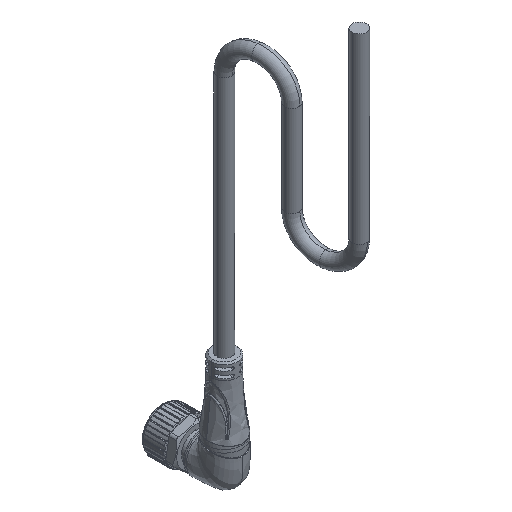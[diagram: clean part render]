
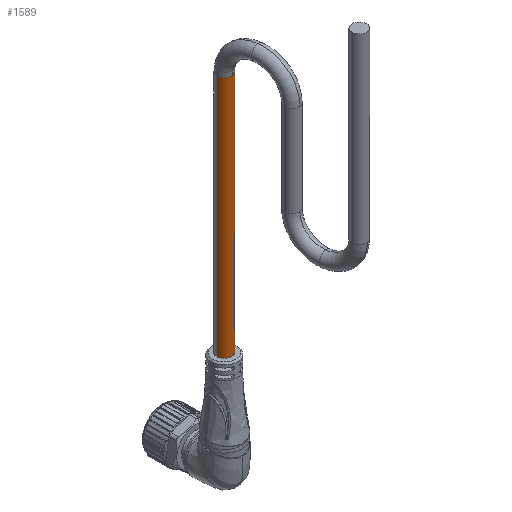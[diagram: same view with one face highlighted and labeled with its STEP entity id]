
A CAD part, isometric view. The second image highlights one B-rep face of the part: STEP entity #1589.
In plain terms, the highlighted cylindrical face has radius 2.4 mm (diameter 4.8 mm), a partial arc.
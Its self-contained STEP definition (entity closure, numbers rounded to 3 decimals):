
#388 = CARTESIAN_POINT ( 'NONE',  ( -2.4, 40., 0. ) ) ;
#615 = VERTEX_POINT ( 'NONE', #388 ) ;
#1589 = ADVANCED_FACE ( 'NONE', ( #33066 ), #25376, .T. ) ;
#2194 = ORIENTED_EDGE ( 'NONE', *, *, #7365, .T. ) ;
#3317 = CARTESIAN_POINT ( 'NONE',  ( 2.4, 40., 0. ) ) ;
#3783 = EDGE_CURVE ( 'NONE', #615, #38173, #26492, .T. ) ;
#4962 = CARTESIAN_POINT ( 'NONE',  ( 0., 40., -90. ) ) ;
#6242 = EDGE_CURVE ( 'NONE', #36699, #32282, #31878, .T. ) ;
#7365 = EDGE_CURVE ( 'NONE', #36699, #47685, #12637, .T. ) ;
#8374 = CIRCLE ( 'NONE', #53088, 2.4 ) ;
#10058 = ORIENTED_EDGE ( 'NONE', *, *, #6242, .F. ) ;
#10258 = DIRECTION ( 'NONE',  ( 0., 0., -1. ) ) ;
#11272 = DIRECTION ( 'NONE',  ( 0., 0., -1. ) ) ;
#11559 = AXIS2_PLACEMENT_3D ( 'NONE', #31151, #22918, #39676 ) ;
#12637 = CIRCLE ( 'NONE', #46924, 2.4 ) ;
#12697 = EDGE_CURVE ( 'NONE', #47685, #615, #35248, .T. ) ;
#13472 = ORIENTED_EDGE ( 'NONE', *, *, #12697, .T. ) ;
#14956 = DIRECTION ( 'NONE',  ( -1., 0., 0. ) ) ;
#15922 = CARTESIAN_POINT ( 'NONE',  ( -2.4, 40., -90. ) ) ;
#16236 = VECTOR ( 'NONE', #11272, 1000. ) ;
#20981 = CARTESIAN_POINT ( 'NONE',  ( 0., 40., 0. ) ) ;
#22918 = DIRECTION ( 'NONE',  ( 0., 0., -1. ) ) ;
#23833 = ORIENTED_EDGE ( 'NONE', *, *, #41117, .F. ) ;
#25376 = CYLINDRICAL_SURFACE ( 'NONE', #44109, 2.4 ) ;
#26492 = LINE ( 'NONE', #47877, #53633 ) ;
#29183 = CARTESIAN_POINT ( 'NONE',  ( 0., 37.6, 0. ) ) ;
#31151 = CARTESIAN_POINT ( 'NONE',  ( 0., 40., 0. ) ) ;
#31203 = CARTESIAN_POINT ( 'NONE',  ( 2.4, 40., -90. ) ) ;
#31878 = LINE ( 'NONE', #3317, #16236 ) ;
#32282 = VERTEX_POINT ( 'NONE', #31203 ) ;
#33066 = FACE_OUTER_BOUND ( 'NONE', #39376, .T. ) ;
#34086 = DIRECTION ( 'NONE',  ( -1., 0., 0. ) ) ;
#35248 = CIRCLE ( 'NONE', #11559, 2.4 ) ;
#36699 = VERTEX_POINT ( 'NONE', #53632 ) ;
#38173 = VERTEX_POINT ( 'NONE', #15922 ) ;
#39376 = EDGE_LOOP ( 'NONE', ( #10058, #2194, #13472, #44885, #23833 ) ) ;
#39676 = DIRECTION ( 'NONE',  ( -1., 0., 0. ) ) ;
#41117 = EDGE_CURVE ( 'NONE', #32282, #38173, #8374, .T. ) ;
#42591 = DIRECTION ( 'NONE',  ( 0., 0., -1. ) ) ;
#44060 = DIRECTION ( 'NONE',  ( 0., 0., -1. ) ) ;
#44109 = AXIS2_PLACEMENT_3D ( 'NONE', #20981, #50369, #54192 ) ;
#44885 = ORIENTED_EDGE ( 'NONE', *, *, #3783, .T. ) ;
#46924 = AXIS2_PLACEMENT_3D ( 'NONE', #52306, #44060, #14956 ) ;
#47685 = VERTEX_POINT ( 'NONE', #29183 ) ;
#47877 = CARTESIAN_POINT ( 'NONE',  ( -2.4, 40., 0. ) ) ;
#50369 = DIRECTION ( 'NONE',  ( 0., 0., -1. ) ) ;
#52306 = CARTESIAN_POINT ( 'NONE',  ( 0., 40., 0. ) ) ;
#53088 = AXIS2_PLACEMENT_3D ( 'NONE', #4962, #42591, #34086 ) ;
#53632 = CARTESIAN_POINT ( 'NONE',  ( 2.4, 40., 0. ) ) ;
#53633 = VECTOR ( 'NONE', #10258, 1000. ) ;
#54192 = DIRECTION ( 'NONE',  ( -1., 0., 0. ) ) ;
